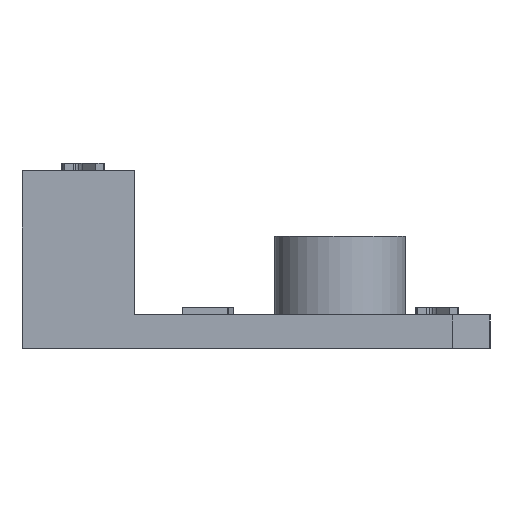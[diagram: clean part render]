
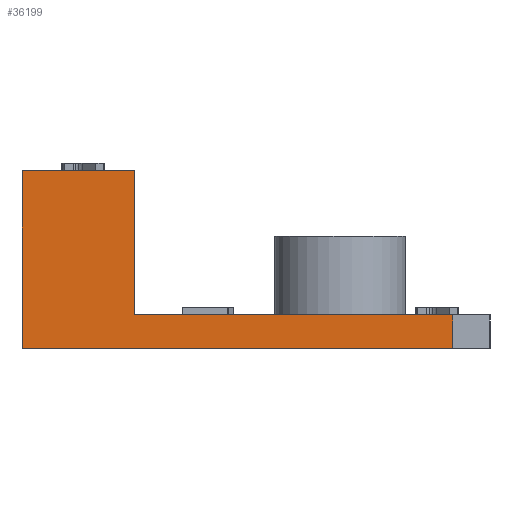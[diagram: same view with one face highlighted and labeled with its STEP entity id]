
A CAD part, left-side view. The second image highlights one B-rep face of the part: STEP entity #36199.
In plain terms, the highlighted planar face has unit normal (-1, 0, 0).
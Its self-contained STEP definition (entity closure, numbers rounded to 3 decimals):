
#21 = EDGE_CURVE('',#22,#24,#26,.T.);
#22 = VERTEX_POINT('',#23);
#23 = CARTESIAN_POINT('',(0.,2.,1.8));
#24 = VERTEX_POINT('',#25);
#25 = CARTESIAN_POINT('',(0.,19.,1.8));
#26 = LINE('',#27,#28);
#27 = CARTESIAN_POINT('',(0.,0.,1.8));
#28 = VECTOR('',#29,1.);
#29 = DIRECTION('',(0.,1.,0.));
#5489 = VERTEX_POINT('',#5490);
#5490 = CARTESIAN_POINT('',(0.,2.,0.));
#5505 = EDGE_CURVE('',#5489,#22,#5506,.T.);
#5506 = LINE('',#5507,#5508);
#5507 = CARTESIAN_POINT('',(0.,2.,-1.));
#5508 = VECTOR('',#5509,1.);
#5509 = DIRECTION('',(0.,0.,1.));
#5520 = EDGE_CURVE('',#24,#5521,#5523,.T.);
#5521 = VERTEX_POINT('',#5522);
#5522 = CARTESIAN_POINT('',(0.,19.,9.5));
#5523 = LINE('',#5524,#5525);
#5524 = CARTESIAN_POINT('',(0.,19.,0.));
#5525 = VECTOR('',#5526,1.);
#5526 = DIRECTION('',(0.,0.,1.));
#17854 = EDGE_CURVE('',#5521,#17855,#17857,.T.);
#17855 = VERTEX_POINT('',#17856);
#17856 = CARTESIAN_POINT('',(0.,25.,9.5));
#17857 = LINE('',#17858,#17859);
#17858 = CARTESIAN_POINT('',(0.,19.,9.5));
#17859 = VECTOR('',#17860,1.);
#17860 = DIRECTION('',(0.,1.,0.));
#36199 = ADVANCED_FACE('',(#36200),#36220,.T.);
#36200 = FACE_BOUND('',#36201,.T.);
#36201 = EDGE_LOOP('',(#36202,#36203,#36204,#36205,#36213,#36219));
#36202 = ORIENTED_EDGE('',*,*,#21,.T.);
#36203 = ORIENTED_EDGE('',*,*,#5520,.T.);
#36204 = ORIENTED_EDGE('',*,*,#17854,.T.);
#36205 = ORIENTED_EDGE('',*,*,#36206,.F.);
#36206 = EDGE_CURVE('',#36207,#17855,#36209,.T.);
#36207 = VERTEX_POINT('',#36208);
#36208 = CARTESIAN_POINT('',(0.,25.,0.));
#36209 = LINE('',#36210,#36211);
#36210 = CARTESIAN_POINT('',(0.,25.,0.));
#36211 = VECTOR('',#36212,1.);
#36212 = DIRECTION('',(0.,0.,1.));
#36213 = ORIENTED_EDGE('',*,*,#36214,.F.);
#36214 = EDGE_CURVE('',#5489,#36207,#36215,.T.);
#36215 = LINE('',#36216,#36217);
#36216 = CARTESIAN_POINT('',(0.,0.,0.));
#36217 = VECTOR('',#36218,1.);
#36218 = DIRECTION('',(0.,1.,0.));
#36219 = ORIENTED_EDGE('',*,*,#5505,.T.);
#36220 = PLANE('',#36221);
#36221 = AXIS2_PLACEMENT_3D('',#36222,#36223,#36224);
#36222 = CARTESIAN_POINT('',(0.,15.514,2.736));
#36223 = DIRECTION('',(-1.,-0.,-0.));
#36224 = DIRECTION('',(0.,0.,-1.));
